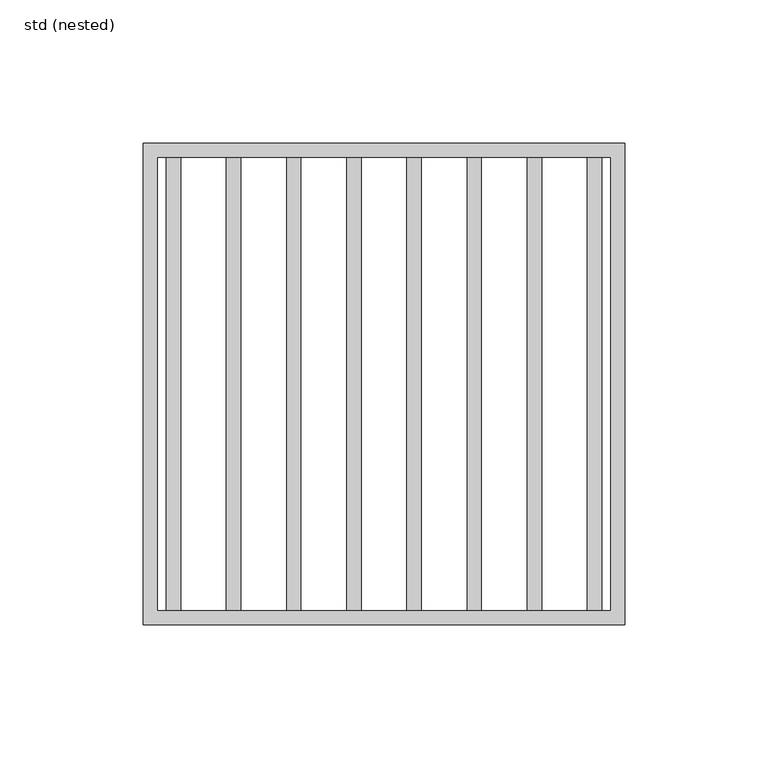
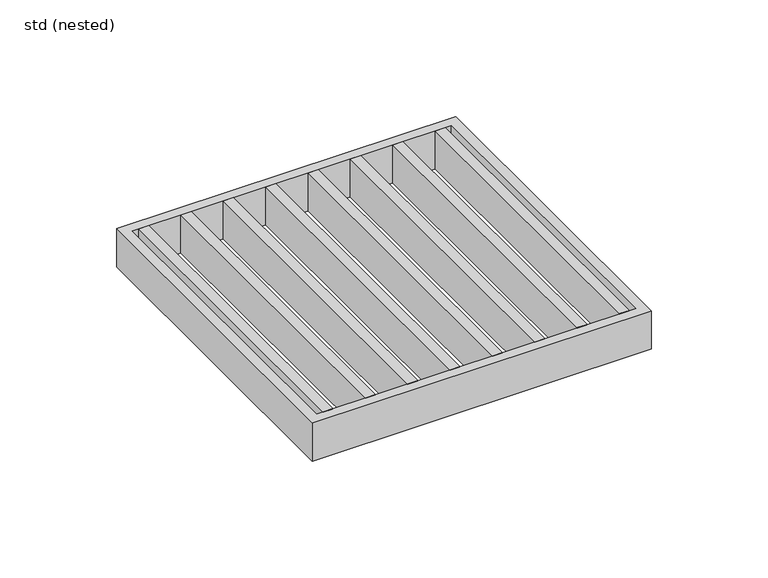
"""IFC4 building model written with IfcOpenShell, lengths in millimetres: sanitary terminal geometry, ZZZ_do not use_PF_ST_UN_square grating for hygienic gully_ACO : std (nested)."""

from ifc_helpers import new_model, si_unit, frame, origin, place, context, project, spatial, polyline, outline, extrude, source, transform, mapped, element, save


def std_nested_9cee5a2e(model_context):
    return source(origin(), model_context, "Body", "SweptSolid", [
        extrude(outline(polyline([(-71.0, -79.0), (-76.0, -79.0), (-76.0, 79.0), (-71.0, 79.0), (-71.0, -79.0)])), frame((0.0, 0.0, -20.0), z_axis=(0.0, 0.0, 1.0), x_axis=(1.0, 0.0, 0.0)), (0.0, 0.0, 1.0), 20.0),
        extrude(outline(polyline([(-50.0, -79.0), (-55.0, -79.0), (-55.0, 79.0), (-50.0, 79.0), (-50.0, -79.0)])), frame((0.0, 0.0, -20.0), z_axis=(0.0, 0.0, 1.0), x_axis=(1.0, 0.0, 0.0)), (0.0, 0.0, 1.0), 20.0),
        extrude(outline(polyline([(-29.0, -79.0), (-34.0, -79.0), (-34.0, 79.0), (-29.0, 79.0), (-29.0, -79.0)])), frame((0.0, 0.0, -20.0), z_axis=(0.0, 0.0, 1.0), x_axis=(1.0, 0.0, 0.0)), (0.0, 0.0, 1.0), 20.0),
        extrude(outline(polyline([(76.0, -79.0), (71.0, -79.0), (71.0, 79.0), (76.0, 79.0), (76.0, -79.0)])), frame((0.0, 0.0, -20.0), z_axis=(0.0, 0.0, 1.0), x_axis=(1.0, 0.0, 0.0)), (0.0, 0.0, 1.0), 20.0),
        extrude(outline(polyline([(55.0, -79.0), (50.0, -79.0), (50.0, 79.0), (55.0, 79.0), (55.0, -79.0)])), frame((0.0, 0.0, -20.0), z_axis=(0.0, 0.0, 1.0), x_axis=(1.0, 0.0, 0.0)), (0.0, 0.0, 1.0), 20.0),
        extrude(outline(polyline([(34.0, -79.0), (29.0, -79.0), (29.0, 79.0), (34.0, 79.0), (34.0, -79.0)])), frame((0.0, 0.0, -20.0), z_axis=(0.0, 0.0, 1.0), x_axis=(1.0, 0.0, 0.0)), (0.0, 0.0, 1.0), 20.0),
        extrude(outline(polyline([(-8.0, -79.0), (-13.0, -79.0), (-13.0, 79.0), (-8.0, 79.0), (-8.0, -79.0)])), frame((0.0, 0.0, -20.0), z_axis=(0.0, 0.0, 1.0), x_axis=(1.0, 0.0, 0.0)), (0.0, 0.0, 1.0), 20.0),
        extrude(outline(polyline([(13.0, -79.0), (8.0, -79.0), (8.0, 79.0), (13.0, 79.0), (13.0, -79.0)])), frame((0.0, 0.0, -20.0), z_axis=(0.0, 0.0, 1.0), x_axis=(1.0, 0.0, 0.0)), (0.0, 0.0, 1.0), 20.0),
        extrude(outline(polyline([(84.0, 84.0), (84.0, -84.0), (-84.0, -84.0), (-84.0, 84.0), (84.0, 84.0)]), holes=[polyline([(79.0, 79.0), (-79.0, 79.0), (-79.0, -79.0), (79.0, -79.0), (79.0, 79.0)])]), frame((0.0, 0.0, -20.0), z_axis=(0.0, 0.0, 1.0), x_axis=(1.0, 0.0, 0.0)), (0.0, 0.0, 1.0), 20.0),
    ])


if __name__ == "__main__":
    model = new_model("IFC4")
    model_context = context("Model", 3, world=origin())
    ifc_project = project(units=[si_unit("LENGTHUNIT", "METRE", prefix="MILLI")], contexts=[model_context])
    site = spatial("IfcSite", under=ifc_project)
    building = spatial("IfcBuilding", under=site)
    placement = place(None, origin())
    std_nested_shape = std_nested_9cee5a2e(model_context)
    element("IfcSanitaryTerminal", 1, ObjectType="ZZZ_do not use_PF_ST_UN_square grating for hygienic gully_ACO : std (nested)", at=placement, inside=building, context=model_context, shape_type="MappedRepresentation", body=[
        mapped(std_nested_shape, transform((0.0, 0.0, 0.0), x_axis=(1.0, 0.0, 0.0), y_axis=(0.0, 1.0, 0.0), z_axis=(0.0, 0.0, 1.0))),
    ])
    save(model, "model.ifc")
